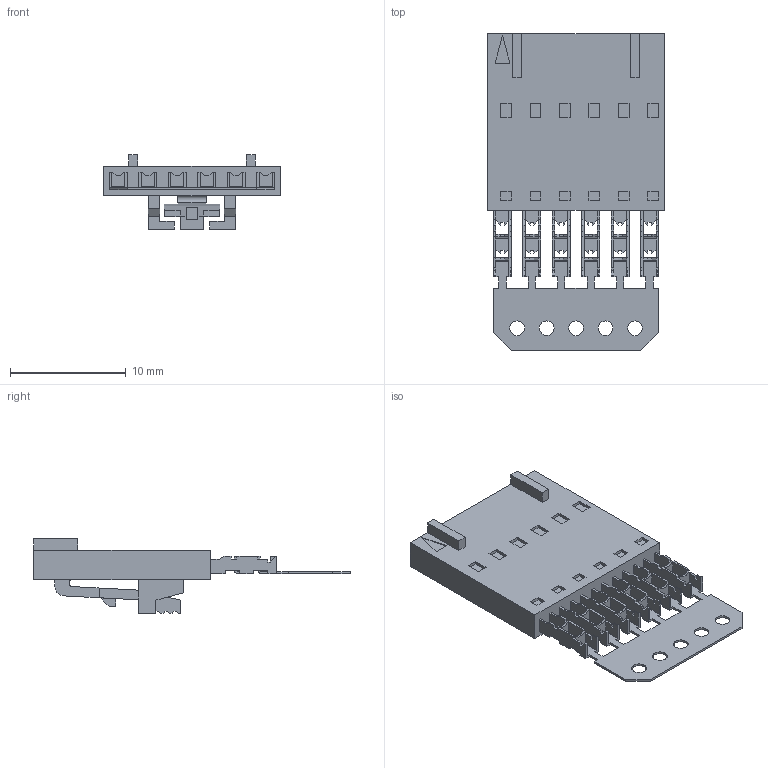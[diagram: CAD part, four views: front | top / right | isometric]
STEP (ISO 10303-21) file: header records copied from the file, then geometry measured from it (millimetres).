
FILE_DESCRIPTION((''),'2;1');
FILE_NAME('014567062','2016-12-07T',('ksrinivasara'),(''),'PRO/ENGINEER BY PARAMETRIC TECHNOLOGY CORPORATION, 2012310','PRO/ENGINEER BY PARAMETRIC TECHNOLOGY CORPORATION, 2012310','');
FILE_SCHEMA(('CONFIG_CONTROL_DESIGN'));
Length unit declared in the file: inch
Products named in the file (1): 014567062
Bounding box: 15.21 x 27.3 x 6.45 mm (x, y, z)
Volume: 671.2 mm3; surface area: 1277.7 mm2
Topology: 1 solids, 1 shells, 747 faces, 2255 edges, 1468 vertices
Faces by surface type: plane 711, cylinder 36
Entity records: 24938 total; most frequent: ORIENTED_EDGE 4500, CARTESIAN_POINT 4462, DIRECTION 3873, EDGE_CURVE 2250, VECTOR 2135, LINE 2135, VERTEX_POINT 1458, AXIS2_PLACEMENT_3D 869
